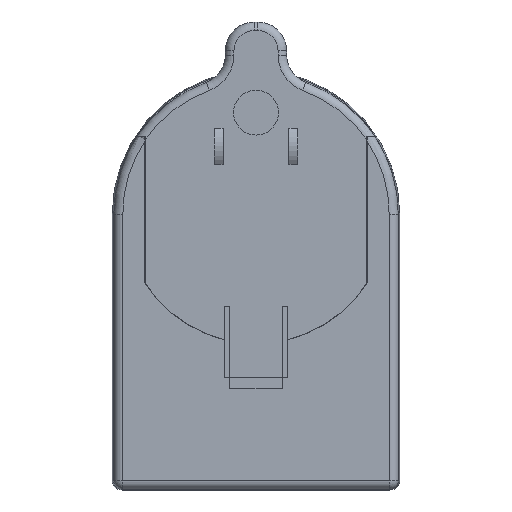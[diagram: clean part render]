
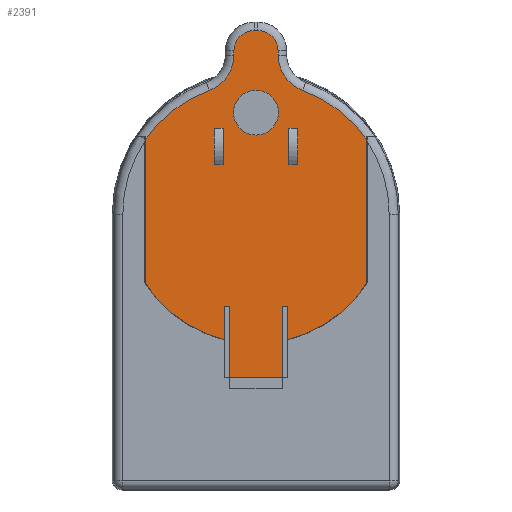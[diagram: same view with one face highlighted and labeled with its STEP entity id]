
A CAD part, top view. The second image highlights one B-rep face of the part: STEP entity #2391.
In plain terms, the highlighted planar face has unit normal (0, 0, 1).
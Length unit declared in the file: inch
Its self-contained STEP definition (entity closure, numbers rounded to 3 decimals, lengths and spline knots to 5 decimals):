
#1634=CARTESIAN_POINT('',(0.,0.9324,0.6725));
#1635=DIRECTION('',(0.,0.,1.));
#1636=DIRECTION('',(-0.345,0.939,0.));
#1637=AXIS2_PLACEMENT_3D('',#1634,#1635,#1636);
#1639=CARTESIAN_POINT('',(-0.4125,2.05395,0.6725));
#1640=DIRECTION('',(0.,0.,-1.));
#1641=DIRECTION('',(1.,0.,0.));
#1642=AXIS2_PLACEMENT_3D('',#1639,#1640,#1641);
#1644=DIRECTION('',(0.,-1.,0.));
#1645=VECTOR('',#1644,0.02905);
#1646=CARTESIAN_POINT('',(-0.1525,2.083,0.6725));
#1647=LINE('',#1646,#1645);
#1648=CARTESIAN_POINT('',(-0.0125,2.083,0.6725));
#1649=DIRECTION('',(0.,0.,1.));
#1650=DIRECTION('',(0.,1.,0.));
#1651=AXIS2_PLACEMENT_3D('',#1648,#1649,#1650);
#1653=DIRECTION('',(-1.,0.,0.));
#1654=VECTOR('',#1653,0.025);
#1655=CARTESIAN_POINT('',(0.0125,2.223,0.6725));
#1656=LINE('',#1655,#1654);
#1657=CARTESIAN_POINT('',(0.0125,2.083,0.6725));
#1658=DIRECTION('',(0.,0.,1.));
#1659=DIRECTION('',(1.,0.,0.));
#1660=AXIS2_PLACEMENT_3D('',#1657,#1658,#1659);
#1662=DIRECTION('',(0.,1.,0.));
#1663=VECTOR('',#1662,0.02905);
#1664=CARTESIAN_POINT('',(0.1525,2.05395,0.6725));
#1665=LINE('',#1664,#1663);
#1666=CARTESIAN_POINT('',(0.4125,2.05395,0.6725));
#1667=DIRECTION('',(0.,0.,-1.));
#1668=DIRECTION('',(-0.345,-0.939,0.));
#1669=AXIS2_PLACEMENT_3D('',#1666,#1667,#1668);
#1671=CARTESIAN_POINT('',(0.,0.9324,0.6725));
#1672=DIRECTION('',(0.,0.,1.));
#1673=DIRECTION('',(0.826,0.563,0.));
#1674=AXIS2_PLACEMENT_3D('',#1671,#1672,#1673);
#1676=DIRECTION('',(0.,-1.,0.));
#1677=VECTOR('',#1676,0.97593);
#1678=CARTESIAN_POINT('',(0.7725,1.45916,0.6725));
#1679=LINE('',#1678,#1677);
#1680=CARTESIAN_POINT('',(0.,0.9736,0.6725));
#1681=DIRECTION('',(0.,0.,-1.));
#1682=DIRECTION('',(0.844,-0.536,0.));
#1683=AXIS2_PLACEMENT_3D('',#1680,#1681,#1682);
#1685=DIRECTION('',(0.,1.,0.));
#1686=VECTOR('',#1685,0.23191);
#1687=CARTESIAN_POINT('',(0.21678,0.08465,0.6725));
#1688=LINE('',#1687,#1686);
#1689=DIRECTION('',(-1.,0.,0.));
#1690=VECTOR('',#1689,0.03678);
#1691=CARTESIAN_POINT('',(0.21678,0.31656,0.6725));
#1692=LINE('',#1691,#1690);
#1693=DIRECTION('',(-1.,0.,0.));
#1694=VECTOR('',#1693,0.36);
#1695=CARTESIAN_POINT('',(0.18,-0.25547,0.6725));
#1696=LINE('',#1695,#1694);
#1697=DIRECTION('',(-1.,0.,0.));
#1698=VECTOR('',#1697,0.03678);
#1699=CARTESIAN_POINT('',(-0.18,0.31656,0.6725));
#1700=LINE('',#1699,#1698);
#1701=DIRECTION('',(0.,-1.,0.));
#1702=VECTOR('',#1701,0.23191);
#1703=CARTESIAN_POINT('',(-0.21678,0.31656,0.6725));
#1704=LINE('',#1703,#1702);
#1705=CARTESIAN_POINT('',(0.,0.9736,0.6725));
#1706=DIRECTION('',(0.,0.,-1.));
#1707=DIRECTION('',(-0.237,-0.972,0.));
#1708=AXIS2_PLACEMENT_3D('',#1705,#1706,#1707);
#1710=DIRECTION('',(0.,1.,0.));
#1711=VECTOR('',#1710,0.97593);
#1712=CARTESIAN_POINT('',(-0.7725,0.48322,0.6725));
#1713=LINE('',#1712,#1711);
#1936=DIRECTION('',(0.,-1.,0.));
#1937=VECTOR('',#1936,0.57202);
#1938=CARTESIAN_POINT('',(-0.18,0.31656,0.6725));
#1939=LINE('',#1938,#1937);
#2002=DIRECTION('',(0.,1.,0.));
#2003=VECTOR('',#2002,0.57202);
#2004=CARTESIAN_POINT('',(0.18,-0.25547,0.6725));
#2005=LINE('',#2004,#2003);
#2196=CARTESIAN_POINT('',(-0.18,0.31656,0.6725));
#2197=CARTESIAN_POINT('',(-0.21678,0.31656,0.6725));
#2198=VERTEX_POINT('',#2196);
#2199=VERTEX_POINT('',#2197);
#2200=CARTESIAN_POINT('',(-0.21678,0.08465,0.6725));
#2201=VERTEX_POINT('',#2200);
#2202=CARTESIAN_POINT('',(0.21678,0.08465,0.6725));
#2203=CARTESIAN_POINT('',(0.21678,0.31656,0.6725));
#2204=VERTEX_POINT('',#2202);
#2205=VERTEX_POINT('',#2203);
#2206=CARTESIAN_POINT('',(0.18,0.31656,0.6725));
#2207=VERTEX_POINT('',#2206);
#2216=CARTESIAN_POINT('',(-0.7725,0.48322,0.6725));
#2217=VERTEX_POINT('',#2216);
#2218=CARTESIAN_POINT('',(0.7725,0.48322,0.6725));
#2219=VERTEX_POINT('',#2218);
#2220=CARTESIAN_POINT('',(-0.18,-0.25547,0.6725));
#2221=CARTESIAN_POINT('',(0.18,-0.25547,0.6725));
#2222=VERTEX_POINT('',#2220);
#2223=VERTEX_POINT('',#2221);
#2264=CARTESIAN_POINT('',(-0.32275,1.80993,0.6725));
#2265=CARTESIAN_POINT('',(-0.7725,1.45916,0.6725));
#2266=VERTEX_POINT('',#2264);
#2267=VERTEX_POINT('',#2265);
#2268=CARTESIAN_POINT('',(-0.1525,2.05395,0.6725));
#2269=VERTEX_POINT('',#2268);
#2272=CARTESIAN_POINT('',(-0.1525,2.083,0.6725));
#2273=VERTEX_POINT('',#2272);
#2276=CARTESIAN_POINT('',(-0.0125,2.223,0.6725));
#2277=VERTEX_POINT('',#2276);
#2280=CARTESIAN_POINT('',(0.0125,2.223,0.6725));
#2281=VERTEX_POINT('',#2280);
#2284=CARTESIAN_POINT('',(0.1525,2.083,0.6725));
#2285=VERTEX_POINT('',#2284);
#2288=CARTESIAN_POINT('',(0.1525,2.05395,0.6725));
#2289=VERTEX_POINT('',#2288);
#2292=CARTESIAN_POINT('',(0.32275,1.80993,0.6725));
#2293=VERTEX_POINT('',#2292);
#2298=CARTESIAN_POINT('',(0.7725,1.45916,0.6725));
#2299=VERTEX_POINT('',#2298);
#2344=CARTESIAN_POINT('',(0.,0.953,0.6725));
#2345=DIRECTION('',(0.,0.,1.));
#2346=DIRECTION('',(1.,0.,0.));
#2347=AXIS2_PLACEMENT_3D('',#2344,#2345,#2346);
#2348=PLANE('',#2347);
#2350=ORIENTED_EDGE('',*,*,#2349,.F.);
#2352=ORIENTED_EDGE('',*,*,#2351,.F.);
#2354=ORIENTED_EDGE('',*,*,#2353,.F.);
#2356=ORIENTED_EDGE('',*,*,#2355,.F.);
#2358=ORIENTED_EDGE('',*,*,#2357,.F.);
#2360=ORIENTED_EDGE('',*,*,#2359,.F.);
#2362=ORIENTED_EDGE('',*,*,#2361,.F.);
#2364=ORIENTED_EDGE('',*,*,#2363,.F.);
#2366=ORIENTED_EDGE('',*,*,#2365,.F.);
#2368=ORIENTED_EDGE('',*,*,#2367,.T.);
#2370=ORIENTED_EDGE('',*,*,#2369,.T.);
#2372=ORIENTED_EDGE('',*,*,#2371,.T.);
#2374=ORIENTED_EDGE('',*,*,#2373,.T.);
#2376=ORIENTED_EDGE('',*,*,#2375,.F.);
#2378=ORIENTED_EDGE('',*,*,#2377,.T.);
#2380=ORIENTED_EDGE('',*,*,#2379,.F.);
#2382=ORIENTED_EDGE('',*,*,#2381,.T.);
#2384=ORIENTED_EDGE('',*,*,#2383,.T.);
#2386=ORIENTED_EDGE('',*,*,#2385,.T.);
#2388=ORIENTED_EDGE('',*,*,#2387,.T.);
#2389=EDGE_LOOP('',(#2350,#2352,#2354,#2356,#2358,#2360,#2362,#2364,#2366,#2368,
#2370,#2372,#2374,#2376,#2378,#2380,#2382,#2384,#2386,#2388));
#2390=FACE_OUTER_BOUND('',#2389,.F.);
#2391=ADVANCED_FACE('',(#2390),#2348,.T.);
#1638=CIRCLE('',#1637,0.935);
#1643=CIRCLE('',#1642,0.26);
#1652=CIRCLE('',#1651,0.14);
#1661=CIRCLE('',#1660,0.14);
#1670=CIRCLE('',#1669,0.26);
#1675=CIRCLE('',#1674,0.935);
#1684=CIRCLE('',#1683,0.915);
#1709=CIRCLE('',#1708,0.915);
#2349=EDGE_CURVE('',#2266,#2267,#1638,.T.);
#2351=EDGE_CURVE('',#2269,#2266,#1643,.T.);
#2353=EDGE_CURVE('',#2273,#2269,#1647,.T.);
#2355=EDGE_CURVE('',#2277,#2273,#1652,.T.);
#2357=EDGE_CURVE('',#2281,#2277,#1656,.T.);
#2359=EDGE_CURVE('',#2285,#2281,#1661,.T.);
#2361=EDGE_CURVE('',#2289,#2285,#1665,.T.);
#2363=EDGE_CURVE('',#2293,#2289,#1670,.T.);
#2365=EDGE_CURVE('',#2299,#2293,#1675,.T.);
#2367=EDGE_CURVE('',#2299,#2219,#1679,.T.);
#2369=EDGE_CURVE('',#2219,#2204,#1684,.T.);
#2371=EDGE_CURVE('',#2204,#2205,#1688,.T.);
#2373=EDGE_CURVE('',#2205,#2207,#1692,.T.);
#2375=EDGE_CURVE('',#2223,#2207,#2005,.T.);
#2377=EDGE_CURVE('',#2223,#2222,#1696,.T.);
#2379=EDGE_CURVE('',#2198,#2222,#1939,.T.);
#2381=EDGE_CURVE('',#2198,#2199,#1700,.T.);
#2383=EDGE_CURVE('',#2199,#2201,#1704,.T.);
#2385=EDGE_CURVE('',#2201,#2217,#1709,.T.);
#2387=EDGE_CURVE('',#2217,#2267,#1713,.T.);
